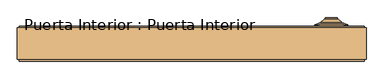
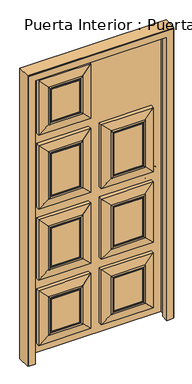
"""IFC4 building model written with IfcOpenShell, lengths in millimetres: door geometry, Puerta Interior : Puerta Interior."""

from ifc_helpers import new_model, si_unit, point, frame, frame_2d, origin, place, context, project, spatial, polyline, circle_curve, ellipse_curve, trimmed, segment, composite_curve, outline, extrude, faceted_brep, source, transform, mapped, element, save
from ifc_brep_helpers import plane_surface, cylinder_surface, revolved_surface, advanced_brep


def puerta_interior_puerta_interior_ed458bac(model_context):
    return source(origin(), model_context, "Body", "SolidModel", [
        extrude(outline(composite_curve([segment(trimmed(circle_curve(frame_2d((1025.0174632, 400.28125)), 17.5), [point((1025.0174632, 382.78125))], [point((1025.0174632, 417.78125))], False, "CARTESIAN"), True, "CONTINUOUS"), segment(trimmed(circle_curve(frame_2d((1025.0174632, 400.28125)), 17.5), [point((1025.0174632, 417.78125))], [point((1025.0174632, 382.78125))], False, "CARTESIAN"), True, "CONTINUOUS")], self_intersect=False)), frame((0.0, 55.0, 0.0), z_axis=(0.0, 1.0, 0.0), x_axis=(0.0, 0.0, 1.0)), (0.0, 0.0, 1.0), 20.0),
        advanced_brep(
        [(447.78125, 55.0, 1025.0174632), (352.78125, 55.0, 1025.0174632), (352.78125, 50.0, 1025.0174632), (447.78125, 50.0, 1025.0174632), (431.78125, 60.0, 1025.0174632), (368.78125, 60.0, 1025.0174632), (419.9828812, 70.0, 1025.0174632), (380.5796188, 70.0, 1025.0174632), (418.1741787, 70.0, 1025.0174632), (382.3883213, 70.0, 1025.0174632), (418.1741787, 55.0, 1025.0174632), (382.3883213, 55.0, 1025.0174632), (400.28125, 55.0, 1025.0174632), (400.28125, 50.0, 1025.0174632)],
        [
            (0, 1, circle_curve(frame((400.28125, 55.0, 1025.0174632), z_axis=(0.0, -1.0, 0.0), x_axis=(-1.0, 0.0, 0.0)), 47.5)),
            (1, 2),
            (2, 3, circle_curve(frame((400.28125, 50.0, 1025.0174632), z_axis=(0.0, 1.0, 0.0), x_axis=(-1.0, 0.0, 0.0)), 47.5)),
            (3, 0),
            (1, 0, circle_curve(frame((400.28125, 55.0, 1025.0174632), z_axis=(0.0, -1.0, 0.0), x_axis=(-1.0, 0.0, 0.0)), 47.5)),
            (3, 2, circle_curve(frame((400.28125, 50.0, 1025.0174632), z_axis=(0.0, 1.0, 0.0), x_axis=(-1.0, 0.0, 0.0)), 47.5)),
            (4, 5, circle_curve(frame((400.28125, 60.0, 1025.0174632), z_axis=(0.0, -1.0, 0.0), x_axis=(-1.0, 0.0, 0.0)), 31.5)),
            (5, 1),
            (0, 4),
            (5, 4, circle_curve(frame((400.28125, 60.0, 1025.0174632), z_axis=(0.0, -1.0, 0.0), x_axis=(-1.0, 0.0, 0.0)), 31.5)),
            (6, 7, circle_curve(frame((400.28125, 70.0, 1025.0174632), z_axis=(0.0, -1.0, 0.0), x_axis=(-1.0, 0.0, 0.0)), 19.7016312)),
            (7, 5),
            (4, 6),
            (7, 6, circle_curve(frame((400.28125, 70.0, 1025.0174632), z_axis=(0.0, -1.0, 0.0), x_axis=(-1.0, 0.0, 0.0)), 19.7016312)),
            (8, 9, circle_curve(frame((400.28125, 70.0, 1025.0174632), z_axis=(0.0, -1.0, 0.0), x_axis=(-1.0, 0.0, 0.0)), 17.8929287)),
            (9, 7),
            (6, 8),
            (9, 8, circle_curve(frame((400.28125, 70.0, 1025.0174632), z_axis=(0.0, -1.0, 0.0), x_axis=(-1.0, 0.0, 0.0)), 17.8929287)),
            (10, 11, circle_curve(frame((400.28125, 55.0, 1025.0174632), z_axis=(0.0, -1.0, 0.0), x_axis=(-1.0, 0.0, 0.0)), 17.8929287)),
            (11, 9),
            (8, 10),
            (11, 10, circle_curve(frame((400.28125, 55.0, 1025.0174632), z_axis=(0.0, -1.0, 0.0), x_axis=(-1.0, 0.0, 0.0)), 17.8929287)),
            (12, 11),
            (10, 12),
            (2, 13),
            (13, 3),
        ],
        [
            cylinder_surface(frame((400.28125, 50.0, 1025.0174632), z_axis=(0.0, 1.0, 0.0), x_axis=(-1.0, 0.0, 0.0)), 47.5),
            revolved_surface(polyline([(352.78125, 55.0, 1025.0174632), (368.78125, 60.0, 1025.0174632)]), (400.28125, 50.0, 1025.0174632), (0.0, 1.0, 0.0)),
            revolved_surface(polyline([(368.78125, 60.0, 1025.0174632), (380.5796188, 70.0, 1025.0174632)]), (400.28125, 50.0, 1025.0174632), (0.0, 1.0, 0.0)),
            plane_surface(frame((400.28125, 70.0, 1025.0174632), z_axis=(0.0, 1.0, 0.0), x_axis=(-1.0, 0.0, 0.0))),
            revolved_surface(polyline([(382.38832130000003, 70.0, 1025.0174632), (382.38832130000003, 55.0, 1025.0174632)]), (400.28125, 50.0, 1025.0174632), (0.0, 1.0, 0.0)),
            plane_surface(frame((400.28125, 55.0, 1025.0174632), z_axis=(0.0, 1.0, 0.0), x_axis=(-1.0, 0.0, 0.0))),
            plane_surface(frame((400.28125, 50.0, 1025.0174632), z_axis=(0.0, -1.0, 0.0), x_axis=(-1.0, 0.0, 0.0))),
        ],
        [
            (0, [[1, 2, 3, 4]]),
            (0, [[5, -4, 6, -2]]),
            (1, [[7, 8, -1, 9]]),
            (1, [[10, -9, -5, -8]]),
            (2, [[11, 12, -7, 13]]),
            (2, [[14, -13, -10, -12]]),
            (3, [[15, 16, -11, 17]]),
            (3, [[18, -17, -14, -16]]),
            (4, [[19, 20, -15, 21]]),
            (4, [[22, -21, -18, -20]]),
            (5, [[23, -19, 24]]),
            (5, [[-24, -22, -23]]),
            (6, [[-3, 25, 26]]),
            (6, [[-6, -26, -25]]),
        ],
    ),
        faceted_brep([(500.0, 45.0, 0.0), (500.0, -45.0, 0.0), (495.0, -45.0, 0.0), (495.0, -50.0, 0.0), (450.0, -50.0, 0.0), (450.0, 0.0, 0.0), (467.0, 0.0, 0.0), (467.0, 50.0, 0.0), (495.0, 50.0, 0.0), (495.0, 45.0, 0.0), (500.0, 45.0, 2100.0), (500.0, -45.0, 2100.0), (-500.0, -45.0, 2100.0), (-500.0, -45.0, 0.0), (-495.0, -45.0, 0.0), (-495.0, -45.0, 2095.0), (495.0, -45.0, 2095.0), (495.0, -50.0, 2095.0), (-495.0, -50.0, 2095.0), (-495.0, -50.0, 0.0), (-450.0, -50.0, 0.0), (-450.0, -50.0, 2050.0), (450.0, -50.0, 2050.0), (450.0, 0.0, 2050.0), (-450.0, 0.0, 2050.0), (-450.0, 0.0, 0.0), (-467.0, 0.0, 0.0), (-467.0, 0.0, 2067.0), (467.0, 0.0, 2067.0), (467.0, 50.0, 2067.0), (-467.0, 50.0, 2067.0), (-467.0, 50.0, 1950.0), (-469.0, 50.0, 1950.0), (-469.0, 50.0, 1850.0), (-467.0, 50.0, 1850.0), (-467.0, 50.0, 1075.0174632), (-469.0, 50.0, 1075.0174632), (-469.0, 50.0, 975.0174632), (-467.0, 50.0, 975.0174632), (-467.0, 50.0, 200.0349265), (-469.0, 50.0, 200.0349265), (-469.0, 50.0, 100.0349265), (-467.0, 50.0, 100.0349265), (-467.0, 50.0, 0.0), (-495.0, 50.0, 0.0), (-495.0, 50.0, 2095.0), (495.0, 50.0, 2095.0), (495.0, 45.0, 2095.0), (-495.0, 45.0, 2095.0), (-495.0, 45.0, 0.0), (-500.0, 45.0, 0.0), (-500.0, 45.0, 2100.0), (-467.0, 7.5, 100.0349265), (-467.0, 7.5, 200.0349265), (-467.0, 7.5, 975.0174632), (-467.0, 7.5, 1075.0174632), (-467.0, 7.5, 1850.0), (-467.0, 7.5, 1950.0), (-469.0, 7.5, 100.0349265), (-469.0, 7.5, 200.0349265), (-469.0, 7.5, 975.0174632), (-469.0, 7.5, 1075.0174632), (-469.0, 7.5, 1950.0), (-469.0, 7.5, 1850.0)], [[[0, 1, 2, 3, 4, 5, 6, 7, 8, 9]], [[1, 0, 10, 11]], [[2, 1, 11, 12, 13, 14, 15, 16]], [[3, 2, 16, 17]], [[4, 3, 17, 18, 19, 20, 21, 22]], [[5, 4, 22, 23]], [[6, 5, 23, 24, 25, 26, 27, 28]], [[7, 6, 28, 29]], [[8, 7, 29, 30, 31, 32, 33, 34, 35, 36, 37, 38, 39, 40, 41, 42, 43, 44, 45, 46]], [[9, 8, 46, 47]], [[0, 9, 47, 48, 49, 50, 51, 10]], [[13, 50, 49, 44, 43, 26, 25, 20, 19, 14]], [[12, 51, 50, 13]], [[48, 45, 44, 49]], [[30, 27, 26, 43, 42, 52, 53, 39, 38, 54, 55, 35, 34, 56, 57, 31]], [[24, 21, 20, 25]], [[18, 15, 14, 19]], [[58, 52, 42, 41]], [[58, 59, 53, 52]], [[53, 59, 40, 39]], [[60, 54, 38, 37]], [[60, 61, 55, 54]], [[55, 61, 36, 35]], [[61, 60, 37, 36]], [[59, 58, 41, 40]], [[11, 10, 51, 12]], [[23, 22, 21, 24]], [[29, 28, 27, 30]], [[17, 16, 15, 18]], [[47, 46, 45, 48]], [[62, 63, 33, 32]], [[62, 32, 31, 57]], [[63, 62, 57, 56]], [[33, 63, 56, 34]]]),
        extrude(outline(polyline([(467.0, 48.203125), (-467.0, 48.203125), (-467.0, 50.0), (467.0, 50.0), (467.0, 48.203125)])), frame((0.0, 0.0, 2.5), z_axis=(0.0, 0.0, 1.0), x_axis=(1.0, 0.0, 0.0)), (0.0, 0.0, 1.0), 2064.5),
        advanced_brep(
        [(117.5, 0.0, 395.0087316), (117.5, 0.0, 157.5), (312.0, 0.0, 157.5), (312.0, 0.0, 395.0087316), (37.5, 35.0, 77.5), (37.5, 35.0, 475.0087316), (392.0, 35.0, 475.0087316), (392.0, 35.0, 77.5), (117.5, -5.0, 395.0087316), (117.5, -5.0, 157.5), (37.5, 10.0, 475.0087316), (37.5, 10.0, 77.5), (97.5, 0.0, 137.5), (97.5, 0.0, 415.0087316), (107.5, 0.0, 147.5), (107.5, 0.0, 405.0087316), (112.5, -5.0, 400.0087316), (112.5, 0.0, 400.0087316), (112.5, 0.0, 152.5), (112.5, -5.0, 152.5), (312.0, -5.0, 157.5), (392.0, 10.0, 77.5), (332.0, 0.0, 137.5), (322.0, 0.0, 147.5), (317.0, 0.0, 152.5), (317.0, -5.0, 152.5), (312.0, -5.0, 395.0087316), (392.0, 10.0, 475.0087316), (332.0, 0.0, 415.0087316), (322.0, 0.0, 405.0087316), (317.0, 0.0, 400.0087316), (317.0, -5.0, 400.0087316)],
        [
            (0, 1),
            (1, 2),
            (2, 3),
            (3, 0),
            (4, 5),
            (5, 6),
            (6, 7),
            (7, 4),
            (8, 9),
            (9, 1),
            (0, 8),
            (10, 5),
            (4, 11),
            (11, 10),
            (11, 12),
            (12, 13),
            (13, 10),
            (12, 14, ellipse_curve(frame((102.5, 0.0, 142.5), z_axis=(-0.7071067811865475, 0.0, 0.7071067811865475), x_axis=(0.7071067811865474, 0.0, 0.7071067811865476)), 7.0710678, 5.0)),
            (14, 15),
            (15, 13, ellipse_curve(frame((102.5, 0.0, 410.0087316), z_axis=(-0.7071067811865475, 0.0, -0.7071067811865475), x_axis=(-0.7071067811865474, 0.0, 0.7071067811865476)), 7.0710678, 5.0)),
            (16, 17),
            (17, 18),
            (18, 19),
            (19, 16),
            (9, 20),
            (20, 2),
            (7, 21),
            (21, 11),
            (21, 22),
            (22, 12),
            (22, 23, ellipse_curve(frame((327.0, 0.0, 142.5), z_axis=(-0.7071067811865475, 0.0, -0.7071067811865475), x_axis=(-0.7071067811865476, 0.0, 0.7071067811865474)), 7.0710678, 5.0)),
            (23, 14),
            (18, 24),
            (24, 25),
            (25, 19),
            (20, 26),
            (26, 3),
            (6, 27),
            (27, 21),
            (27, 28),
            (28, 22),
            (28, 29, ellipse_curve(frame((327.0, 0.0, 410.0087316), z_axis=(0.7071067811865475, 0.0, -0.7071067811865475), x_axis=(-0.7071067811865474, 0.0, -0.7071067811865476)), 7.0710678, 5.0)),
            (29, 23),
            (24, 30),
            (30, 31),
            (31, 25),
            (26, 8),
            (10, 27),
            (13, 28),
            (15, 29),
            (17, 30),
            (16, 31),
        ],
        [
            plane_surface(frame((117.5, 0.0, 395.0087316), z_axis=(0.0, -1.0, 0.0), x_axis=(0.0, 0.0, -1.0))),
            plane_surface(frame((117.5, 35.0, 395.0087316), z_axis=(0.0, 1.0, 0.0), x_axis=(0.0, 0.0, 1.0))),
            plane_surface(frame((117.5, -5.0, 395.0087316), z_axis=(1.0, 0.0, 0.0), x_axis=(0.0, 0.0, -1.0))),
            plane_surface(frame((37.5, 35.0, 475.0087316), z_axis=(-1.0, 0.0, 0.0), x_axis=(0.0, 0.0, -1.0))),
            plane_surface(frame((37.5, 10.0, 475.0087316), z_axis=(-0.1643989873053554, -0.9863939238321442, 0.0), x_axis=(0.0, 0.0, -1.0))),
            cylinder_surface(frame((102.5, 0.0, 475.0087316), z_axis=(0.0, 0.0, 1.0), x_axis=(0.0, 1.0, 0.0)), 5.0),
            plane_surface(frame((112.5, 0.0, 400.0087316), z_axis=(-1.0, 0.0, 0.0), x_axis=(0.0, 0.0, -1.0))),
            plane_surface(frame((117.5, -5.0, 157.5), z_axis=(0.0, 0.0, 1.0), x_axis=(1.0, 0.0, 0.0))),
            plane_surface(frame((37.5, 35.0, 77.5), z_axis=(0.0, 0.0, -1.0), x_axis=(1.0, 0.0, 0.0))),
            plane_surface(frame((37.5, 10.0, 77.5), z_axis=(0.0, -0.9863939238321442, -0.1643989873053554), x_axis=(1.0, 0.0, 0.0))),
            cylinder_surface(frame((37.5, 0.0, 142.5), z_axis=(-1.0, 0.0, 0.0), x_axis=(0.0, 1.0, 0.0)), 5.0),
            plane_surface(frame((112.5, 0.0, 152.5), z_axis=(0.0, 0.0, -1.0), x_axis=(1.0, 0.0, 0.0))),
            plane_surface(frame((312.0, -5.0, 157.5), z_axis=(-1.0, 0.0, 0.0), x_axis=(0.0, 0.0, 1.0))),
            plane_surface(frame((392.0, 35.0, 77.5), z_axis=(1.0, 0.0, 0.0), x_axis=(0.0, 0.0, 1.0))),
            plane_surface(frame((392.0, 10.0, 77.5), z_axis=(0.1643989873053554, -0.9863939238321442, 0.0), x_axis=(0.0, 0.0, 1.0))),
            cylinder_surface(frame((327.0, 0.0, 77.5), z_axis=(0.0, 0.0, -1.0), x_axis=(0.0, 1.0, 0.0)), 5.0),
            plane_surface(frame((317.0, 0.0, 152.5), z_axis=(1.0, 0.0, 0.0), x_axis=(0.0, 0.0, 1.0))),
            plane_surface(frame((312.0, -5.0, 395.0087316), z_axis=(0.0, 0.0, -1.0), x_axis=(-1.0, 0.0, 0.0))),
            plane_surface(frame((392.0, 35.0, 475.0087316), z_axis=(0.0, 0.0, 1.0), x_axis=(-1.0, 0.0, 0.0))),
            plane_surface(frame((392.0, 10.0, 475.0087316), z_axis=(0.0, -0.9863939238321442, 0.1643989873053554), x_axis=(-1.0, 0.0, 0.0))),
            cylinder_surface(frame((392.0, 0.0, 410.0087316), z_axis=(1.0, 0.0, 0.0), x_axis=(0.0, 1.0, 0.0)), 5.0),
            plane_surface(frame((322.0, 0.0, 405.0087316), z_axis=(0.0, -1.0, 0.0), x_axis=(-1.0, 0.0, 0.0))),
            plane_surface(frame((317.0, 0.0, 400.0087316), z_axis=(0.0, 0.0, 1.0), x_axis=(-1.0, 0.0, 0.0))),
            plane_surface(frame((317.0, -5.0, 400.0087316), z_axis=(0.0, -1.0, 0.0), x_axis=(-1.0, 0.0, 0.0))),
        ],
        [
            (0, [[1, 2, 3, 4]]),
            (1, [[5, 6, 7, 8]]),
            (2, [[9, 10, -1, 11]]),
            (3, [[12, -5, 13, 14]]),
            (4, [[-14, 15, 16, 17]]),
            (5, [[-16, 18, 19, 20]]),
            (6, [[21, 22, 23, 24]]),
            (7, [[25, 26, -2, -10]]),
            (8, [[-13, -8, 27, 28]]),
            (9, [[-15, -28, 29, 30]]),
            (10, [[-18, -30, 31, 32]]),
            (11, [[-23, 33, 34, 35]]),
            (12, [[36, 37, -3, -26]]),
            (13, [[-27, -7, 38, 39]]),
            (14, [[-29, -39, 40, 41]]),
            (15, [[-31, -41, 42, 43]]),
            (16, [[-34, 44, 45, 46]]),
            (17, [[47, -11, -4, -37]]),
            (18, [[-12, 48, -38, -6]]),
            (19, [[-17, 49, -40, -48]]),
            (20, [[-20, 50, -42, -49]]),
            (21, [[-19, -32, -43, -50], [-22, 51, -44, -33]]),
            (22, [[-21, 52, -45, -51]]),
            (23, [[-24, -35, -46, -52], [-9, -47, -36, -25]]),
        ],
    ),
        advanced_brep(
        [(-312.0, 0.0, 395.0087316), (-312.0, 0.0, 157.5), (-117.5, 0.0, 157.5), (-117.5, 0.0, 395.0087316), (-392.0, 35.0, 77.5), (-392.0, 35.0, 475.0087316), (-37.5, 35.0, 475.0087316), (-37.5, 35.0, 77.5), (-312.0, -5.0, 395.0087316), (-312.0, -5.0, 157.5), (-392.0, 10.0, 475.0087316), (-392.0, 10.0, 77.5), (-332.0, 0.0, 137.5), (-332.0, 0.0, 415.0087316), (-322.0, 0.0, 147.5), (-322.0, 0.0, 405.0087316), (-317.0, -5.0, 400.0087316), (-317.0, 0.0, 400.0087316), (-317.0, 0.0, 152.5), (-317.0, -5.0, 152.5), (-117.5, -5.0, 157.5), (-37.5, 10.0, 77.5), (-97.5, 0.0, 137.5), (-107.5, 0.0, 147.5), (-112.5, 0.0, 152.5), (-112.5, -5.0, 152.5), (-117.5, -5.0, 395.0087316), (-37.5, 10.0, 475.0087316), (-97.5, 0.0, 415.0087316), (-107.5, 0.0, 405.0087316), (-112.5, 0.0, 400.0087316), (-112.5, -5.0, 400.0087316)],
        [
            (0, 1),
            (1, 2),
            (2, 3),
            (3, 0),
            (4, 5),
            (5, 6),
            (6, 7),
            (7, 4),
            (8, 9),
            (9, 1),
            (0, 8),
            (10, 5),
            (4, 11),
            (11, 10),
            (11, 12),
            (12, 13),
            (13, 10),
            (12, 14, ellipse_curve(frame((-327.0, 0.0, 142.5), z_axis=(-0.7071067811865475, 0.0, 0.7071067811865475), x_axis=(0.7071067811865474, 0.0, 0.7071067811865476)), 7.0710678, 5.0)),
            (14, 15),
            (15, 13, ellipse_curve(frame((-327.0, 0.0, 410.0087316), z_axis=(-0.7071067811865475, 0.0, -0.7071067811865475), x_axis=(-0.7071067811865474, 0.0, 0.7071067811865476)), 7.0710678, 5.0)),
            (16, 17),
            (17, 18),
            (18, 19),
            (19, 16),
            (9, 20),
            (20, 2),
            (7, 21),
            (21, 11),
            (21, 22),
            (22, 12),
            (22, 23, ellipse_curve(frame((-102.5, 0.0, 142.5), z_axis=(-0.7071067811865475, 0.0, -0.7071067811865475), x_axis=(-0.7071067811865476, 0.0, 0.7071067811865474)), 7.0710678, 5.0)),
            (23, 14),
            (18, 24),
            (24, 25),
            (25, 19),
            (20, 26),
            (26, 3),
            (6, 27),
            (27, 21),
            (27, 28),
            (28, 22),
            (28, 29, ellipse_curve(frame((-102.5, 0.0, 410.0087316), z_axis=(0.7071067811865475, 0.0, -0.7071067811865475), x_axis=(-0.7071067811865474, 0.0, -0.7071067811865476)), 7.0710678, 5.0)),
            (29, 23),
            (24, 30),
            (30, 31),
            (31, 25),
            (26, 8),
            (10, 27),
            (13, 28),
            (15, 29),
            (17, 30),
            (16, 31),
        ],
        [
            plane_surface(frame((-312.0, 0.0, 395.0087316), z_axis=(0.0, -1.0, 0.0), x_axis=(0.0, 0.0, -1.0))),
            plane_surface(frame((-312.0, 35.0, 395.0087316), z_axis=(0.0, 1.0, 0.0), x_axis=(0.0, 0.0, 1.0))),
            plane_surface(frame((-312.0, -5.0, 395.0087316), z_axis=(1.0, 0.0, 0.0), x_axis=(0.0, 0.0, -1.0))),
            plane_surface(frame((-392.0, 35.0, 475.0087316), z_axis=(-1.0, 0.0, 0.0), x_axis=(0.0, 0.0, -1.0))),
            plane_surface(frame((-392.0, 10.0, 475.0087316), z_axis=(-0.1643989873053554, -0.9863939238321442, 0.0), x_axis=(0.0, 0.0, -1.0))),
            cylinder_surface(frame((-327.0, 0.0, 475.0087316), z_axis=(0.0, 0.0, 1.0), x_axis=(0.0, 1.0, 0.0)), 5.0),
            plane_surface(frame((-317.0, 0.0, 400.0087316), z_axis=(-1.0, 0.0, 0.0), x_axis=(0.0, 0.0, -1.0))),
            plane_surface(frame((-312.0, -5.0, 157.5), z_axis=(0.0, 0.0, 1.0), x_axis=(1.0, 0.0, 0.0))),
            plane_surface(frame((-392.0, 35.0, 77.5), z_axis=(0.0, 0.0, -1.0), x_axis=(1.0, 0.0, 0.0))),
            plane_surface(frame((-392.0, 10.0, 77.5), z_axis=(0.0, -0.9863939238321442, -0.1643989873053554), x_axis=(1.0, 0.0, 0.0))),
            cylinder_surface(frame((-392.0, 0.0, 142.5), z_axis=(-1.0, 0.0, 0.0), x_axis=(0.0, 1.0, 0.0)), 5.0),
            plane_surface(frame((-317.0, 0.0, 152.5), z_axis=(0.0, 0.0, -1.0), x_axis=(1.0, 0.0, 0.0))),
            plane_surface(frame((-117.5, -5.0, 157.5), z_axis=(-1.0, 0.0, 0.0), x_axis=(0.0, 0.0, 1.0))),
            plane_surface(frame((-37.5, 35.0, 77.5), z_axis=(1.0, 0.0, 0.0), x_axis=(0.0, 0.0, 1.0))),
            plane_surface(frame((-37.5, 10.0, 77.5), z_axis=(0.1643989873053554, -0.9863939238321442, 0.0), x_axis=(0.0, 0.0, 1.0))),
            cylinder_surface(frame((-102.5, 0.0, 77.5), z_axis=(0.0, 0.0, -1.0), x_axis=(0.0, 1.0, 0.0)), 5.0),
            plane_surface(frame((-112.5, 0.0, 152.5), z_axis=(1.0, 0.0, 0.0), x_axis=(0.0, 0.0, 1.0))),
            plane_surface(frame((-117.5, -5.0, 395.0087316), z_axis=(0.0, 0.0, -1.0), x_axis=(-1.0, 0.0, 0.0))),
            plane_surface(frame((-37.5, 35.0, 475.0087316), z_axis=(0.0, 0.0, 1.0), x_axis=(-1.0, 0.0, 0.0))),
            plane_surface(frame((-37.5, 10.0, 475.0087316), z_axis=(0.0, -0.9863939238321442, 0.1643989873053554), x_axis=(-1.0, 0.0, 0.0))),
            cylinder_surface(frame((-37.5, 0.0, 410.0087316), z_axis=(1.0, 0.0, 0.0), x_axis=(0.0, 1.0, 0.0)), 5.0),
            plane_surface(frame((-107.5, 0.0, 405.0087316), z_axis=(0.0, -1.0, 0.0), x_axis=(-1.0, 0.0, 0.0))),
            plane_surface(frame((-112.5, 0.0, 400.0087316), z_axis=(0.0, 0.0, 1.0), x_axis=(-1.0, 0.0, 0.0))),
            plane_surface(frame((-112.5, -5.0, 400.0087316), z_axis=(0.0, -1.0, 0.0), x_axis=(-1.0, 0.0, 0.0))),
        ],
        [
            (0, [[1, 2, 3, 4]]),
            (1, [[5, 6, 7, 8]]),
            (2, [[9, 10, -1, 11]]),
            (3, [[12, -5, 13, 14]]),
            (4, [[-14, 15, 16, 17]]),
            (5, [[-16, 18, 19, 20]]),
            (6, [[21, 22, 23, 24]]),
            (7, [[25, 26, -2, -10]]),
            (8, [[-13, -8, 27, 28]]),
            (9, [[-15, -28, 29, 30]]),
            (10, [[-18, -30, 31, 32]]),
            (11, [[-23, 33, 34, 35]]),
            (12, [[36, 37, -3, -26]]),
            (13, [[-27, -7, 38, 39]]),
            (14, [[-29, -39, 40, 41]]),
            (15, [[-31, -41, 42, 43]]),
            (16, [[-34, 44, 45, 46]]),
            (17, [[47, -11, -4, -37]]),
            (18, [[-12, 48, -38, -6]]),
            (19, [[-17, 49, -40, -48]]),
            (20, [[-20, 50, -42, -49]]),
            (21, [[-19, -32, -43, -50], [-22, 51, -44, -33]]),
            (22, [[-21, 52, -45, -51]]),
            (23, [[-24, -35, -46, -52], [-9, -47, -36, -25]]),
        ],
    ),
        advanced_brep(
        [(-312.0, 0.0, 907.5174632), (-312.0, 0.0, 630.0087316), (-117.5, 0.0, 630.0087316), (-117.5, 0.0, 907.5174632), (-392.0, 35.0, 550.0087316), (-392.0, 35.0, 987.5174632), (-37.5, 35.0, 987.5174632), (-37.5, 35.0, 550.0087316), (-312.0, -5.0, 907.5174632), (-312.0, -5.0, 630.0087316), (-392.0, 10.0, 987.5174632), (-392.0, 10.0, 550.0087316), (-332.0, 0.0, 610.0087316), (-332.0, 0.0, 927.5174632), (-322.0, 0.0, 620.0087316), (-322.0, 0.0, 917.5174632), (-317.0, -5.0, 912.5174632), (-317.0, 0.0, 912.5174632), (-317.0, 0.0, 625.0087316), (-317.0, -5.0, 625.0087316), (-117.5, -5.0, 630.0087316), (-37.5, 10.0, 550.0087316), (-97.5, 0.0, 610.0087316), (-107.5, 0.0, 620.0087316), (-112.5, 0.0, 625.0087316), (-112.5, -5.0, 625.0087316), (-117.5, -5.0, 907.5174632), (-37.5, 10.0, 987.5174632), (-97.5, 0.0, 927.5174632), (-107.5, 0.0, 917.5174632), (-112.5, 0.0, 912.5174632), (-112.5, -5.0, 912.5174632)],
        [
            (0, 1),
            (1, 2),
            (2, 3),
            (3, 0),
            (4, 5),
            (5, 6),
            (6, 7),
            (7, 4),
            (8, 9),
            (9, 1),
            (0, 8),
            (10, 5),
            (4, 11),
            (11, 10),
            (11, 12),
            (12, 13),
            (13, 10),
            (12, 14, ellipse_curve(frame((-327.0, 0.0, 615.0087316), z_axis=(-0.7071067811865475, 0.0, 0.7071067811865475), x_axis=(0.7071067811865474, 0.0, 0.7071067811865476)), 7.0710678, 5.0)),
            (14, 15),
            (15, 13, ellipse_curve(frame((-327.0, 0.0, 922.5174632), z_axis=(-0.7071067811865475, 0.0, -0.7071067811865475), x_axis=(-0.7071067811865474, 0.0, 0.7071067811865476)), 7.0710678, 5.0)),
            (16, 17),
            (17, 18),
            (18, 19),
            (19, 16),
            (9, 20),
            (20, 2),
            (7, 21),
            (21, 11),
            (21, 22),
            (22, 12),
            (22, 23, ellipse_curve(frame((-102.5, 0.0, 615.0087316), z_axis=(-0.7071067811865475, 0.0, -0.7071067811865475), x_axis=(-0.7071067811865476, 0.0, 0.7071067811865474)), 7.0710678, 5.0)),
            (23, 14),
            (18, 24),
            (24, 25),
            (25, 19),
            (20, 26),
            (26, 3),
            (6, 27),
            (27, 21),
            (27, 28),
            (28, 22),
            (28, 29, ellipse_curve(frame((-102.5, 0.0, 922.5174632), z_axis=(0.7071067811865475, 0.0, -0.7071067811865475), x_axis=(-0.7071067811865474, 0.0, -0.7071067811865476)), 7.0710678, 5.0)),
            (29, 23),
            (24, 30),
            (30, 31),
            (31, 25),
            (26, 8),
            (10, 27),
            (13, 28),
            (15, 29),
            (17, 30),
            (16, 31),
        ],
        [
            plane_surface(frame((-312.0, 0.0, 907.5174632), z_axis=(0.0, -1.0, 0.0), x_axis=(0.0, 0.0, -1.0))),
            plane_surface(frame((-312.0, 35.0, 907.5174632), z_axis=(0.0, 1.0, 0.0), x_axis=(0.0, 0.0, 1.0))),
            plane_surface(frame((-312.0, -5.0, 907.5174632), z_axis=(1.0, 0.0, 0.0), x_axis=(0.0, 0.0, -1.0))),
            plane_surface(frame((-392.0, 35.0, 987.5174632), z_axis=(-1.0, 0.0, 0.0), x_axis=(0.0, 0.0, -1.0))),
            plane_surface(frame((-392.0, 10.0, 987.5174632), z_axis=(-0.1643989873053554, -0.9863939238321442, 0.0), x_axis=(0.0, 0.0, -1.0))),
            cylinder_surface(frame((-327.0, 0.0, 987.5174632), z_axis=(0.0, 0.0, 1.0), x_axis=(0.0, 1.0, 0.0)), 5.0),
            plane_surface(frame((-317.0, 0.0, 912.5174632), z_axis=(-1.0, 0.0, 0.0), x_axis=(0.0, 0.0, -1.0))),
            plane_surface(frame((-312.0, -5.0, 630.0087316), z_axis=(0.0, 0.0, 1.0), x_axis=(1.0, 0.0, 0.0))),
            plane_surface(frame((-392.0, 35.0, 550.0087316), z_axis=(0.0, 0.0, -1.0), x_axis=(1.0, 0.0, 0.0))),
            plane_surface(frame((-392.0, 10.0, 550.0087316), z_axis=(0.0, -0.9863939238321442, -0.1643989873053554), x_axis=(1.0, 0.0, 0.0))),
            cylinder_surface(frame((-392.0, 0.0, 615.0087316), z_axis=(-1.0, 0.0, 0.0), x_axis=(0.0, 1.0, 0.0)), 5.0),
            plane_surface(frame((-317.0, 0.0, 625.0087316), z_axis=(0.0, 0.0, -1.0), x_axis=(1.0, 0.0, 0.0))),
            plane_surface(frame((-117.5, -5.0, 630.0087316), z_axis=(-1.0, 0.0, 0.0), x_axis=(0.0, 0.0, 1.0))),
            plane_surface(frame((-37.5, 35.0, 550.0087316), z_axis=(1.0, 0.0, 0.0), x_axis=(0.0, 0.0, 1.0))),
            plane_surface(frame((-37.5, 10.0, 550.0087316), z_axis=(0.1643989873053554, -0.9863939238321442, 0.0), x_axis=(0.0, 0.0, 1.0))),
            cylinder_surface(frame((-102.5, 0.0, 550.0087316), z_axis=(0.0, 0.0, -1.0), x_axis=(0.0, 1.0, 0.0)), 5.0),
            plane_surface(frame((-112.5, 0.0, 625.0087316), z_axis=(1.0, 0.0, 0.0), x_axis=(0.0, 0.0, 1.0))),
            plane_surface(frame((-117.5, -5.0, 907.5174632), z_axis=(0.0, 0.0, -1.0), x_axis=(-1.0, 0.0, 0.0))),
            plane_surface(frame((-37.5, 35.0, 987.5174632), z_axis=(0.0, 0.0, 1.0), x_axis=(-1.0, 0.0, 0.0))),
            plane_surface(frame((-37.5, 10.0, 987.5174632), z_axis=(0.0, -0.9863939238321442, 0.1643989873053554), x_axis=(-1.0, 0.0, 0.0))),
            cylinder_surface(frame((-37.5, 0.0, 922.5174632), z_axis=(1.0, 0.0, 0.0), x_axis=(0.0, 1.0, 0.0)), 5.0),
            plane_surface(frame((-107.5, 0.0, 917.5174632), z_axis=(0.0, -1.0, 0.0), x_axis=(-1.0, 0.0, 0.0))),
            plane_surface(frame((-112.5, 0.0, 912.5174632), z_axis=(0.0, 0.0, 1.0), x_axis=(-1.0, 0.0, 0.0))),
            plane_surface(frame((-112.5, -5.0, 912.5174632), z_axis=(0.0, -1.0, 0.0), x_axis=(-1.0, 0.0, 0.0))),
        ],
        [
            (0, [[1, 2, 3, 4]]),
            (1, [[5, 6, 7, 8]]),
            (2, [[9, 10, -1, 11]]),
            (3, [[12, -5, 13, 14]]),
            (4, [[-14, 15, 16, 17]]),
            (5, [[-16, 18, 19, 20]]),
            (6, [[21, 22, 23, 24]]),
            (7, [[25, 26, -2, -10]]),
            (8, [[-13, -8, 27, 28]]),
            (9, [[-15, -28, 29, 30]]),
            (10, [[-18, -30, 31, 32]]),
            (11, [[-23, 33, 34, 35]]),
            (12, [[36, 37, -3, -26]]),
            (13, [[-27, -7, 38, 39]]),
            (14, [[-29, -39, 40, 41]]),
            (15, [[-31, -41, 42, 43]]),
            (16, [[-34, 44, 45, 46]]),
            (17, [[47, -11, -4, -37]]),
            (18, [[-12, 48, -38, -6]]),
            (19, [[-17, 49, -40, -48]]),
            (20, [[-20, 50, -42, -49]]),
            (21, [[-19, -32, -43, -50], [-22, 51, -44, -33]]),
            (22, [[-21, 52, -45, -51]]),
            (23, [[-24, -35, -46, -52], [-9, -47, -36, -25]]),
        ],
    ),
        advanced_brep(
        [(117.5, 0.0, 907.5174632), (117.5, 0.0, 630.0087316), (312.0, 0.0, 630.0087316), (312.0, 0.0, 907.5174632), (37.5, 35.0, 550.0087316), (37.5, 35.0, 987.5174632), (392.0, 35.0, 987.5174632), (392.0, 35.0, 550.0087316), (117.5, -5.0, 907.5174632), (117.5, -5.0, 630.0087316), (37.5, 10.0, 987.5174632), (37.5, 10.0, 550.0087316), (97.5, 0.0, 610.0087316), (97.5, 0.0, 927.5174632), (107.5, 0.0, 620.0087316), (107.5, 0.0, 917.5174632), (112.5, -5.0, 912.5174632), (112.5, 0.0, 912.5174632), (112.5, 0.0, 625.0087316), (112.5, -5.0, 625.0087316), (312.0, -5.0, 630.0087316), (392.0, 10.0, 550.0087316), (332.0, 0.0, 610.0087316), (322.0, 0.0, 620.0087316), (317.0, 0.0, 625.0087316), (317.0, -5.0, 625.0087316), (312.0, -5.0, 907.5174632), (392.0, 10.0, 987.5174632), (332.0, 0.0, 927.5174632), (322.0, 0.0, 917.5174632), (317.0, 0.0, 912.5174632), (317.0, -5.0, 912.5174632)],
        [
            (0, 1),
            (1, 2),
            (2, 3),
            (3, 0),
            (4, 5),
            (5, 6),
            (6, 7),
            (7, 4),
            (8, 9),
            (9, 1),
            (0, 8),
            (10, 5),
            (4, 11),
            (11, 10),
            (11, 12),
            (12, 13),
            (13, 10),
            (12, 14, ellipse_curve(frame((102.5, 0.0, 615.0087316), z_axis=(-0.7071067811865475, 0.0, 0.7071067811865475), x_axis=(0.7071067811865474, 0.0, 0.7071067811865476)), 7.0710678, 5.0)),
            (14, 15),
            (15, 13, ellipse_curve(frame((102.5, 0.0, 922.5174632), z_axis=(-0.7071067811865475, 0.0, -0.7071067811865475), x_axis=(-0.7071067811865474, 0.0, 0.7071067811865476)), 7.0710678, 5.0)),
            (16, 17),
            (17, 18),
            (18, 19),
            (19, 16),
            (9, 20),
            (20, 2),
            (7, 21),
            (21, 11),
            (21, 22),
            (22, 12),
            (22, 23, ellipse_curve(frame((327.0, 0.0, 615.0087316), z_axis=(-0.7071067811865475, 0.0, -0.7071067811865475), x_axis=(-0.7071067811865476, 0.0, 0.7071067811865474)), 7.0710678, 5.0)),
            (23, 14),
            (18, 24),
            (24, 25),
            (25, 19),
            (20, 26),
            (26, 3),
            (6, 27),
            (27, 21),
            (27, 28),
            (28, 22),
            (28, 29, ellipse_curve(frame((327.0, 0.0, 922.5174632), z_axis=(0.7071067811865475, 0.0, -0.7071067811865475), x_axis=(-0.7071067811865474, 0.0, -0.7071067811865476)), 7.0710678, 5.0)),
            (29, 23),
            (24, 30),
            (30, 31),
            (31, 25),
            (26, 8),
            (10, 27),
            (13, 28),
            (15, 29),
            (17, 30),
            (16, 31),
        ],
        [
            plane_surface(frame((117.5, 0.0, 907.5174632), z_axis=(0.0, -1.0, 0.0), x_axis=(0.0, 0.0, -1.0))),
            plane_surface(frame((117.5, 35.0, 907.5174632), z_axis=(0.0, 1.0, 0.0), x_axis=(0.0, 0.0, 1.0))),
            plane_surface(frame((117.5, -5.0, 907.5174632), z_axis=(1.0, 0.0, 0.0), x_axis=(0.0, 0.0, -1.0))),
            plane_surface(frame((37.5, 35.0, 987.5174632), z_axis=(-1.0, 0.0, 0.0), x_axis=(0.0, 0.0, -1.0))),
            plane_surface(frame((37.5, 10.0, 987.5174632), z_axis=(-0.1643989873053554, -0.9863939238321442, 0.0), x_axis=(0.0, 0.0, -1.0))),
            cylinder_surface(frame((102.5, 0.0, 987.5174632), z_axis=(0.0, 0.0, 1.0), x_axis=(0.0, 1.0, 0.0)), 5.0),
            plane_surface(frame((112.5, 0.0, 912.5174632), z_axis=(-1.0, 0.0, 0.0), x_axis=(0.0, 0.0, -1.0))),
            plane_surface(frame((117.5, -5.0, 630.0087316), z_axis=(0.0, 0.0, 1.0), x_axis=(1.0, 0.0, 0.0))),
            plane_surface(frame((37.5, 35.0, 550.0087316), z_axis=(0.0, 0.0, -1.0), x_axis=(1.0, 0.0, 0.0))),
            plane_surface(frame((37.5, 10.0, 550.0087316), z_axis=(0.0, -0.9863939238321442, -0.1643989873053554), x_axis=(1.0, 0.0, 0.0))),
            cylinder_surface(frame((37.5, 0.0, 615.0087316), z_axis=(-1.0, 0.0, 0.0), x_axis=(0.0, 1.0, 0.0)), 5.0),
            plane_surface(frame((112.5, 0.0, 625.0087316), z_axis=(0.0, 0.0, -1.0), x_axis=(1.0, 0.0, 0.0))),
            plane_surface(frame((312.0, -5.0, 630.0087316), z_axis=(-1.0, 0.0, 0.0), x_axis=(0.0, 0.0, 1.0))),
            plane_surface(frame((392.0, 35.0, 550.0087316), z_axis=(1.0, 0.0, 0.0), x_axis=(0.0, 0.0, 1.0))),
            plane_surface(frame((392.0, 10.0, 550.0087316), z_axis=(0.1643989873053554, -0.9863939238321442, 0.0), x_axis=(0.0, 0.0, 1.0))),
            cylinder_surface(frame((327.0, 0.0, 550.0087316), z_axis=(0.0, 0.0, -1.0), x_axis=(0.0, 1.0, 0.0)), 5.0),
            plane_surface(frame((317.0, 0.0, 625.0087316), z_axis=(1.0, 0.0, 0.0), x_axis=(0.0, 0.0, 1.0))),
            plane_surface(frame((312.0, -5.0, 907.5174632), z_axis=(0.0, 0.0, -1.0), x_axis=(-1.0, 0.0, 0.0))),
            plane_surface(frame((392.0, 35.0, 987.5174632), z_axis=(0.0, 0.0, 1.0), x_axis=(-1.0, 0.0, 0.0))),
            plane_surface(frame((392.0, 10.0, 987.5174632), z_axis=(0.0, -0.9863939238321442, 0.1643989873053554), x_axis=(-1.0, 0.0, 0.0))),
            cylinder_surface(frame((392.0, 0.0, 922.5174632), z_axis=(1.0, 0.0, 0.0), x_axis=(0.0, 1.0, 0.0)), 5.0),
            plane_surface(frame((322.0, 0.0, 917.5174632), z_axis=(0.0, -1.0, 0.0), x_axis=(-1.0, 0.0, 0.0))),
            plane_surface(frame((317.0, 0.0, 912.5174632), z_axis=(0.0, 0.0, 1.0), x_axis=(-1.0, 0.0, 0.0))),
            plane_surface(frame((317.0, -5.0, 912.5174632), z_axis=(0.0, -1.0, 0.0), x_axis=(-1.0, 0.0, 0.0))),
        ],
        [
            (0, [[1, 2, 3, 4]]),
            (1, [[5, 6, 7, 8]]),
            (2, [[9, 10, -1, 11]]),
            (3, [[12, -5, 13, 14]]),
            (4, [[-14, 15, 16, 17]]),
            (5, [[-16, 18, 19, 20]]),
            (6, [[21, 22, 23, 24]]),
            (7, [[25, 26, -2, -10]]),
            (8, [[-13, -8, 27, 28]]),
            (9, [[-15, -28, 29, 30]]),
            (10, [[-18, -30, 31, 32]]),
            (11, [[-23, 33, 34, 35]]),
            (12, [[36, 37, -3, -26]]),
            (13, [[-27, -7, 38, 39]]),
            (14, [[-29, -39, 40, 41]]),
            (15, [[-31, -41, 42, 43]]),
            (16, [[-34, 44, 45, 46]]),
            (17, [[47, -11, -4, -37]]),
            (18, [[-12, 48, -38, -6]]),
            (19, [[-17, 49, -40, -48]]),
            (20, [[-20, 50, -42, -49]]),
            (21, [[-19, -32, -43, -50], [-22, 51, -44, -33]]),
            (22, [[-21, 52, -45, -51]]),
            (23, [[-24, -35, -46, -52], [-9, -47, -36, -25]]),
        ],
    ),
        advanced_brep(
        [(117.5, 0.0, 1445.0087316), (117.5, 0.0, 1142.5174632), (312.0, 0.0, 1142.5174632), (312.0, 0.0, 1445.0087316), (117.5, -5.0, 1445.0087316), (117.5, -5.0, 1142.5174632), (312.0, -5.0, 1142.5174632), (37.5, 35.0, 1062.5174632), (37.5, 35.0, 1525.0087316), (392.0, 35.0, 1525.0087316), (392.0, 35.0, 1062.5174632), (312.0, -5.0, 1445.0087316), (37.5, 10.0, 1525.0087316), (37.5, 10.0, 1062.5174632), (392.0, 10.0, 1062.5174632), (392.0, 10.0, 1525.0087316), (112.5, -5.0, 1450.0087316), (112.5, -5.0, 1137.5174632), (317.0, -5.0, 1137.5174632), (317.0, -5.0, 1450.0087316), (97.5, 0.0, 1122.5174632), (97.5, 0.0, 1465.0087316), (332.0, 0.0, 1122.5174632), (107.5, 0.0, 1132.5174632), (107.5, 0.0, 1455.0087316), (322.0, 0.0, 1132.5174632), (322.0, 0.0, 1455.0087316), (112.5, 0.0, 1137.5174632), (112.5, 0.0, 1450.0087316), (317.0, 0.0, 1450.0087316), (317.0, 0.0, 1137.5174632), (332.0, 0.0, 1465.0087316)],
        [
            (0, 1),
            (1, 2),
            (2, 3),
            (3, 0),
            (4, 5),
            (5, 1),
            (0, 4),
            (5, 6),
            (6, 2),
            (7, 8),
            (8, 9),
            (9, 10),
            (10, 7),
            (6, 11),
            (11, 3),
            (12, 8),
            (7, 13),
            (13, 12),
            (14, 10),
            (9, 15),
            (15, 14),
            (14, 13),
            (16, 17),
            (17, 18),
            (18, 19),
            (19, 16),
            (4, 11),
            (13, 20),
            (20, 21),
            (21, 12),
            (14, 22),
            (22, 20),
            (20, 23, ellipse_curve(frame((102.5, 0.0, 1127.5174632), z_axis=(-0.7071067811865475, 0.0, 0.7071067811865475), x_axis=(0.7071067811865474, 0.0, 0.7071067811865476)), 7.0710678, 5.0)),
            (23, 24),
            (24, 21, ellipse_curve(frame((102.5, 0.0, 1460.0087316), z_axis=(-0.7071067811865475, 0.0, -0.7071067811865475), x_axis=(-0.7071067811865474, 0.0, 0.7071067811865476)), 7.0710678, 5.0)),
            (22, 25, ellipse_curve(frame((327.0, 0.0, 1127.5174632), z_axis=(-0.7071067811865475, 0.0, -0.7071067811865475), x_axis=(-0.7071067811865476, 0.0, 0.7071067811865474)), 7.0710678, 5.0)),
            (25, 23),
            (25, 26),
            (26, 24),
            (27, 28),
            (28, 29),
            (29, 30),
            (30, 27),
            (16, 28),
            (27, 17),
            (30, 18),
            (15, 31),
            (31, 22),
            (31, 26, ellipse_curve(frame((327.0, 0.0, 1460.0087316), z_axis=(0.7071067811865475, 0.0, -0.7071067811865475), x_axis=(-0.7071067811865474, 0.0, -0.7071067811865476)), 7.0710678, 5.0)),
            (29, 19),
            (12, 15),
            (21, 31),
        ],
        [
            plane_surface(frame((117.5, 0.0, 1445.0087316), z_axis=(0.0, -1.0, 0.0), x_axis=(0.0, 0.0, -1.0))),
            plane_surface(frame((117.5, -5.0, 1445.0087316), z_axis=(1.0, 0.0, 0.0), x_axis=(0.0, 0.0, -1.0))),
            plane_surface(frame((117.5, -5.0, 1142.5174632), z_axis=(0.0, 0.0, 1.0), x_axis=(1.0, 0.0, 0.0))),
            plane_surface(frame((117.5, 35.0, 1445.0087316), z_axis=(0.0, 1.0, 0.0), x_axis=(0.0, 0.0, 1.0))),
            plane_surface(frame((312.0, -5.0, 1142.5174632), z_axis=(-1.0, 0.0, 0.0), x_axis=(0.0, 0.0, 1.0))),
            plane_surface(frame((37.5, 35.0, 1525.0087316), z_axis=(-1.0, 0.0, 0.0), x_axis=(0.0, 0.0, -1.0))),
            plane_surface(frame((392.0, 35.0, 1062.5174632), z_axis=(1.0, 0.0, 0.0), x_axis=(0.0, 0.0, 1.0))),
            plane_surface(frame((37.5, 35.0, 1062.5174632), z_axis=(0.0, 0.0, -1.0), x_axis=(1.0, 0.0, 0.0))),
            plane_surface(frame((317.0, -5.0, 1450.0087316), z_axis=(0.0, -1.0, 0.0), x_axis=(-1.0, 0.0, 0.0))),
            plane_surface(frame((37.5, 10.0, 1525.0087316), z_axis=(-0.1643989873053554, -0.9863939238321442, 0.0), x_axis=(0.0, 0.0, -1.0))),
            plane_surface(frame((37.5, 10.0, 1062.5174632), z_axis=(0.0, -0.9863939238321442, -0.1643989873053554), x_axis=(1.0, 0.0, 0.0))),
            cylinder_surface(frame((102.5, 0.0, 1525.0087316), z_axis=(0.0, 0.0, 1.0), x_axis=(0.0, 1.0, 0.0)), 5.0),
            cylinder_surface(frame((37.5, 0.0, 1127.5174632), z_axis=(-1.0, 0.0, 0.0), x_axis=(0.0, 1.0, 0.0)), 5.0),
            plane_surface(frame((322.0, 0.0, 1455.0087316), z_axis=(0.0, -1.0, 0.0), x_axis=(-1.0, 0.0, 0.0))),
            plane_surface(frame((112.5, 0.0, 1450.0087316), z_axis=(-1.0, 0.0, 0.0), x_axis=(0.0, 0.0, -1.0))),
            plane_surface(frame((112.5, 0.0, 1137.5174632), z_axis=(0.0, 0.0, -1.0), x_axis=(1.0, 0.0, 0.0))),
            plane_surface(frame((392.0, 10.0, 1062.5174632), z_axis=(0.1643989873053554, -0.9863939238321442, 0.0), x_axis=(0.0, 0.0, 1.0))),
            cylinder_surface(frame((327.0, 0.0, 1062.5174632), z_axis=(0.0, 0.0, -1.0), x_axis=(0.0, 1.0, 0.0)), 5.0),
            plane_surface(frame((317.0, 0.0, 1137.5174632), z_axis=(1.0, 0.0, 0.0), x_axis=(0.0, 0.0, 1.0))),
            plane_surface(frame((312.0, -5.0, 1445.0087316), z_axis=(0.0, 0.0, -1.0), x_axis=(-1.0, 0.0, 0.0))),
            plane_surface(frame((392.0, 35.0, 1525.0087316), z_axis=(0.0, 0.0, 1.0), x_axis=(-1.0, 0.0, 0.0))),
            plane_surface(frame((392.0, 10.0, 1525.0087316), z_axis=(0.0, -0.9863939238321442, 0.1643989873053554), x_axis=(-1.0, 0.0, 0.0))),
            cylinder_surface(frame((392.0, 0.0, 1460.0087316), z_axis=(1.0, 0.0, 0.0), x_axis=(0.0, 1.0, 0.0)), 5.0),
            plane_surface(frame((317.0, 0.0, 1450.0087316), z_axis=(0.0, 0.0, 1.0), x_axis=(-1.0, 0.0, 0.0))),
        ],
        [
            (0, [[1, 2, 3, 4]]),
            (1, [[5, 6, -1, 7]]),
            (2, [[8, 9, -2, -6]]),
            (3, [[10, 11, 12, 13]]),
            (4, [[14, 15, -3, -9]]),
            (5, [[16, -10, 17, 18]]),
            (6, [[19, -12, 20, 21]]),
            (7, [[-17, -13, -19, 22]]),
            (8, [[23, 24, 25, 26], [-5, 27, -14, -8]]),
            (9, [[-18, 28, 29, 30]]),
            (10, [[-28, -22, 31, 32]]),
            (11, [[-29, 33, 34, 35]]),
            (12, [[-33, -32, 36, 37]]),
            (13, [[-34, -37, 38, 39], [40, 41, 42, 43]]),
            (14, [[44, -40, 45, -23]]),
            (15, [[-45, -43, 46, -24]]),
            (16, [[-31, -21, 47, 48]]),
            (17, [[-36, -48, 49, -38]]),
            (18, [[-46, -42, 50, -25]]),
            (19, [[-27, -7, -4, -15]]),
            (20, [[-16, 51, -20, -11]]),
            (21, [[-30, 52, -47, -51]]),
            (22, [[-35, -39, -49, -52]]),
            (23, [[-44, -26, -50, -41]]),
        ],
    ),
        advanced_brep(
        [(-312.0, 0.0, 1445.0087316), (-312.0, 0.0, 1142.5174632), (-117.5, 0.0, 1142.5174632), (-117.5, 0.0, 1445.0087316), (-312.0, -5.0, 1445.0087316), (-312.0, -5.0, 1142.5174632), (-117.5, -5.0, 1142.5174632), (-117.5, -5.0, 1445.0087316), (-392.0, 10.0, 1525.0087316), (-392.0, 35.0, 1525.0087316), (-392.0, 35.0, 1062.5174632), (-392.0, 10.0, 1062.5174632), (-37.5, 35.0, 1525.0087316), (-37.5, 35.0, 1062.5174632), (-37.5, 10.0, 1062.5174632), (-37.5, 10.0, 1525.0087316), (-317.0, -5.0, 1450.0087316), (-317.0, -5.0, 1137.5174632), (-112.5, -5.0, 1137.5174632), (-112.5, -5.0, 1450.0087316), (-332.0, 0.0, 1122.5174632), (-332.0, 0.0, 1465.0087316), (-97.5, 0.0, 1122.5174632), (-322.0, 0.0, 1132.5174632), (-322.0, 0.0, 1455.0087316), (-107.5, 0.0, 1132.5174632), (-107.5, 0.0, 1455.0087316), (-317.0, 0.0, 1137.5174632), (-317.0, 0.0, 1450.0087316), (-112.5, 0.0, 1450.0087316), (-112.5, 0.0, 1137.5174632), (-97.5, 0.0, 1465.0087316)],
        [
            (0, 1),
            (1, 2),
            (2, 3),
            (3, 0),
            (4, 5),
            (5, 1),
            (0, 4),
            (5, 6),
            (6, 2),
            (6, 7),
            (7, 3),
            (8, 9),
            (9, 10),
            (10, 11),
            (11, 8),
            (9, 12),
            (12, 13),
            (13, 10),
            (14, 13),
            (12, 15),
            (15, 14),
            (14, 11),
            (16, 17),
            (17, 18),
            (18, 19),
            (19, 16),
            (4, 7),
            (11, 20),
            (20, 21),
            (21, 8),
            (14, 22),
            (22, 20),
            (20, 23, ellipse_curve(frame((-327.0, 0.0, 1127.5174632), z_axis=(-0.7071067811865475, 0.0, 0.7071067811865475), x_axis=(0.7071067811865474, 0.0, 0.7071067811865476)), 7.0710678, 5.0)),
            (23, 24),
            (24, 21, ellipse_curve(frame((-327.0, 0.0, 1460.0087316), z_axis=(-0.7071067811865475, 0.0, -0.7071067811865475), x_axis=(-0.7071067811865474, 0.0, 0.7071067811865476)), 7.0710678, 5.0)),
            (22, 25, ellipse_curve(frame((-102.5, 0.0, 1127.5174632), z_axis=(-0.7071067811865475, 0.0, -0.7071067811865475), x_axis=(-0.7071067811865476, 0.0, 0.7071067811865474)), 7.0710678, 5.0)),
            (25, 23),
            (25, 26),
            (26, 24),
            (27, 28),
            (28, 29),
            (29, 30),
            (30, 27),
            (16, 28),
            (27, 17),
            (30, 18),
            (15, 31),
            (31, 22),
            (31, 26, ellipse_curve(frame((-102.5, 0.0, 1460.0087316), z_axis=(0.7071067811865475, 0.0, -0.7071067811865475), x_axis=(-0.7071067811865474, 0.0, -0.7071067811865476)), 7.0710678, 5.0)),
            (29, 19),
            (8, 15),
            (21, 31),
        ],
        [
            plane_surface(frame((-312.0, 0.0, 1445.0087316), z_axis=(0.0, -1.0, 0.0), x_axis=(0.0, 0.0, -1.0))),
            plane_surface(frame((-312.0, -5.0, 1445.0087316), z_axis=(1.0, 0.0, 0.0), x_axis=(0.0, 0.0, -1.0))),
            plane_surface(frame((-312.0, -5.0, 1142.5174632), z_axis=(0.0, 0.0, 1.0), x_axis=(1.0, 0.0, 0.0))),
            plane_surface(frame((-117.5, -5.0, 1142.5174632), z_axis=(-1.0, 0.0, 0.0), x_axis=(0.0, 0.0, 1.0))),
            plane_surface(frame((-392.0, 35.0, 1525.0087316), z_axis=(-1.0, 0.0, 0.0), x_axis=(0.0, 0.0, -1.0))),
            plane_surface(frame((-312.0, 35.0, 1445.0087316), z_axis=(0.0, 1.0, 0.0), x_axis=(0.0, 0.0, 1.0))),
            plane_surface(frame((-37.5, 35.0, 1062.5174632), z_axis=(1.0, 0.0, 0.0), x_axis=(0.0, 0.0, 1.0))),
            plane_surface(frame((-392.0, 35.0, 1062.5174632), z_axis=(0.0, 0.0, -1.0), x_axis=(1.0, 0.0, 0.0))),
            plane_surface(frame((-112.5, -5.0, 1450.0087316), z_axis=(0.0, -1.0, 0.0), x_axis=(-1.0, 0.0, 0.0))),
            plane_surface(frame((-392.0, 10.0, 1525.0087316), z_axis=(-0.1643989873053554, -0.9863939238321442, 0.0), x_axis=(0.0, 0.0, -1.0))),
            plane_surface(frame((-392.0, 10.0, 1062.5174632), z_axis=(0.0, -0.9863939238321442, -0.1643989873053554), x_axis=(1.0, 0.0, 0.0))),
            cylinder_surface(frame((-327.0, 0.0, 1525.0087316), z_axis=(0.0, 0.0, 1.0), x_axis=(0.0, 1.0, 0.0)), 5.0),
            cylinder_surface(frame((-392.0, 0.0, 1127.5174632), z_axis=(-1.0, 0.0, 0.0), x_axis=(0.0, 1.0, 0.0)), 5.0),
            plane_surface(frame((-107.5, 0.0, 1455.0087316), z_axis=(0.0, -1.0, 0.0), x_axis=(-1.0, 0.0, 0.0))),
            plane_surface(frame((-317.0, 0.0, 1450.0087316), z_axis=(-1.0, 0.0, 0.0), x_axis=(0.0, 0.0, -1.0))),
            plane_surface(frame((-317.0, 0.0, 1137.5174632), z_axis=(0.0, 0.0, -1.0), x_axis=(1.0, 0.0, 0.0))),
            plane_surface(frame((-37.5, 10.0, 1062.5174632), z_axis=(0.1643989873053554, -0.9863939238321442, 0.0), x_axis=(0.0, 0.0, 1.0))),
            cylinder_surface(frame((-102.5, 0.0, 1062.5174632), z_axis=(0.0, 0.0, -1.0), x_axis=(0.0, 1.0, 0.0)), 5.0),
            plane_surface(frame((-112.5, 0.0, 1137.5174632), z_axis=(1.0, 0.0, 0.0), x_axis=(0.0, 0.0, 1.0))),
            plane_surface(frame((-117.5, -5.0, 1445.0087316), z_axis=(0.0, 0.0, -1.0), x_axis=(-1.0, 0.0, 0.0))),
            plane_surface(frame((-37.5, 35.0, 1525.0087316), z_axis=(0.0, 0.0, 1.0), x_axis=(-1.0, 0.0, 0.0))),
            plane_surface(frame((-37.5, 10.0, 1525.0087316), z_axis=(0.0, -0.9863939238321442, 0.1643989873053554), x_axis=(-1.0, 0.0, 0.0))),
            cylinder_surface(frame((-37.5, 0.0, 1460.0087316), z_axis=(1.0, 0.0, 0.0), x_axis=(0.0, 1.0, 0.0)), 5.0),
            plane_surface(frame((-112.5, 0.0, 1450.0087316), z_axis=(0.0, 0.0, 1.0), x_axis=(-1.0, 0.0, 0.0))),
        ],
        [
            (0, [[1, 2, 3, 4]]),
            (1, [[5, 6, -1, 7]]),
            (2, [[8, 9, -2, -6]]),
            (3, [[10, 11, -3, -9]]),
            (4, [[12, 13, 14, 15]]),
            (5, [[-13, 16, 17, 18]]),
            (6, [[19, -17, 20, 21]]),
            (7, [[-14, -18, -19, 22]]),
            (8, [[23, 24, 25, 26], [-5, 27, -10, -8]]),
            (9, [[-15, 28, 29, 30]]),
            (10, [[-28, -22, 31, 32]]),
            (11, [[-29, 33, 34, 35]]),
            (12, [[-33, -32, 36, 37]]),
            (13, [[-34, -37, 38, 39], [40, 41, 42, 43]]),
            (14, [[44, -40, 45, -23]]),
            (15, [[-45, -43, 46, -24]]),
            (16, [[-31, -21, 47, 48]]),
            (17, [[-36, -48, 49, -38]]),
            (18, [[-46, -42, 50, -25]]),
            (19, [[-27, -7, -4, -11]]),
            (20, [[-12, 51, -20, -16]]),
            (21, [[-30, 52, -47, -51]]),
            (22, [[-35, -39, -49, -52]]),
            (23, [[-44, -26, -50, -41]]),
        ],
    ),
        advanced_brep(
        [(-312.0, 0.0, 1912.0), (-312.0, 0.0, 1680.0087316), (-117.5, 0.0, 1680.0087316), (-117.5, 0.0, 1912.0), (-392.0, 35.0, 1600.0087316), (-392.0, 35.0, 1992.0), (-37.5, 35.0, 1992.0), (-37.5, 35.0, 1600.0087316), (-312.0, -5.0, 1912.0), (-312.0, -5.0, 1680.0087316), (-392.0, 10.0, 1992.0), (-392.0, 10.0, 1600.0087316), (-332.0, 0.0, 1660.0087316), (-332.0, 0.0, 1932.0), (-322.0, 0.0, 1670.0087316), (-322.0, 0.0, 1922.0), (-317.0, -5.0, 1917.0), (-317.0, 0.0, 1917.0), (-317.0, 0.0, 1675.0087316), (-317.0, -5.0, 1675.0087316), (-117.5, -5.0, 1680.0087316), (-37.5, 10.0, 1600.0087316), (-97.5, 0.0, 1660.0087316), (-107.5, 0.0, 1670.0087316), (-112.5, 0.0, 1675.0087316), (-112.5, -5.0, 1675.0087316), (-117.5, -5.0, 1912.0), (-37.5, 10.0, 1992.0), (-97.5, 0.0, 1932.0), (-107.5, 0.0, 1922.0), (-112.5, 0.0, 1917.0), (-112.5, -5.0, 1917.0)],
        [
            (0, 1),
            (1, 2),
            (2, 3),
            (3, 0),
            (4, 5),
            (5, 6),
            (6, 7),
            (7, 4),
            (8, 9),
            (9, 1),
            (0, 8),
            (10, 5),
            (4, 11),
            (11, 10),
            (11, 12),
            (12, 13),
            (13, 10),
            (12, 14, ellipse_curve(frame((-327.0, 0.0, 1665.0087316), z_axis=(-0.7071067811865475, 0.0, 0.7071067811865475), x_axis=(0.7071067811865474, 0.0, 0.7071067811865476)), 7.0710678, 5.0)),
            (14, 15),
            (15, 13, ellipse_curve(frame((-327.0, 0.0, 1927.0), z_axis=(-0.7071067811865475, 0.0, -0.7071067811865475), x_axis=(-0.7071067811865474, 0.0, 0.7071067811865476)), 7.0710678, 5.0)),
            (16, 17),
            (17, 18),
            (18, 19),
            (19, 16),
            (9, 20),
            (20, 2),
            (7, 21),
            (21, 11),
            (21, 22),
            (22, 12),
            (22, 23, ellipse_curve(frame((-102.5, 0.0, 1665.0087316), z_axis=(-0.7071067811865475, 0.0, -0.7071067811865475), x_axis=(-0.7071067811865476, 0.0, 0.7071067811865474)), 7.0710678, 5.0)),
            (23, 14),
            (18, 24),
            (24, 25),
            (25, 19),
            (20, 26),
            (26, 3),
            (6, 27),
            (27, 21),
            (27, 28),
            (28, 22),
            (28, 29, ellipse_curve(frame((-102.5, 0.0, 1927.0), z_axis=(0.7071067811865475, 0.0, -0.7071067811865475), x_axis=(-0.7071067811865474, 0.0, -0.7071067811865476)), 7.0710678, 5.0)),
            (29, 23),
            (24, 30),
            (30, 31),
            (31, 25),
            (26, 8),
            (10, 27),
            (13, 28),
            (15, 29),
            (17, 30),
            (16, 31),
        ],
        [
            plane_surface(frame((-312.0, 0.0, 1912.0), z_axis=(0.0, -1.0, 0.0), x_axis=(0.0, 0.0, -1.0))),
            plane_surface(frame((-312.0, 35.0, 1912.0), z_axis=(0.0, 1.0, 0.0), x_axis=(0.0, 0.0, 1.0))),
            plane_surface(frame((-312.0, -5.0, 1912.0), z_axis=(1.0, 0.0, 0.0), x_axis=(0.0, 0.0, -1.0))),
            plane_surface(frame((-392.0, 35.0, 1992.0), z_axis=(-1.0, 0.0, 0.0), x_axis=(0.0, 0.0, -1.0))),
            plane_surface(frame((-392.0, 10.0, 1992.0), z_axis=(-0.1643989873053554, -0.9863939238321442, 0.0), x_axis=(0.0, 0.0, -1.0))),
            cylinder_surface(frame((-327.0, 0.0, 1992.0), z_axis=(0.0, 0.0, 1.0), x_axis=(0.0, 1.0, 0.0)), 5.0),
            plane_surface(frame((-317.0, 0.0, 1917.0), z_axis=(-1.0, 0.0, 0.0), x_axis=(0.0, 0.0, -1.0))),
            plane_surface(frame((-312.0, -5.0, 1680.0087316), z_axis=(0.0, 0.0, 1.0), x_axis=(1.0, 0.0, 0.0))),
            plane_surface(frame((-392.0, 35.0, 1600.0087316), z_axis=(0.0, 0.0, -1.0), x_axis=(1.0, 0.0, 0.0))),
            plane_surface(frame((-392.0, 10.0, 1600.0087316), z_axis=(0.0, -0.9863939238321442, -0.1643989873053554), x_axis=(1.0, 0.0, 0.0))),
            cylinder_surface(frame((-392.0, 0.0, 1665.0087316), z_axis=(-1.0, 0.0, 0.0), x_axis=(0.0, 1.0, 0.0)), 5.0),
            plane_surface(frame((-317.0, 0.0, 1675.0087316), z_axis=(0.0, 0.0, -1.0), x_axis=(1.0, 0.0, 0.0))),
            plane_surface(frame((-117.5, -5.0, 1680.0087316), z_axis=(-1.0, 0.0, 0.0), x_axis=(0.0, 0.0, 1.0))),
            plane_surface(frame((-37.5, 35.0, 1600.0087316), z_axis=(1.0, 0.0, 0.0), x_axis=(0.0, 0.0, 1.0))),
            plane_surface(frame((-37.5, 10.0, 1600.0087316), z_axis=(0.1643989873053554, -0.9863939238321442, 0.0), x_axis=(0.0, 0.0, 1.0))),
            cylinder_surface(frame((-102.5, 0.0, 1600.0087316), z_axis=(0.0, 0.0, -1.0), x_axis=(0.0, 1.0, 0.0)), 5.0),
            plane_surface(frame((-112.5, 0.0, 1675.0087316), z_axis=(1.0, 0.0, 0.0), x_axis=(0.0, 0.0, 1.0))),
            plane_surface(frame((-117.5, -5.0, 1912.0), z_axis=(0.0, 0.0, -1.0), x_axis=(-1.0, 0.0, 0.0))),
            plane_surface(frame((-37.5, 35.0, 1992.0), z_axis=(0.0, 0.0, 1.0), x_axis=(-1.0, 0.0, 0.0))),
            plane_surface(frame((-37.5, 10.0, 1992.0), z_axis=(0.0, -0.9863939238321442, 0.1643989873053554), x_axis=(-1.0, 0.0, 0.0))),
            cylinder_surface(frame((-37.5, 0.0, 1927.0), z_axis=(1.0, 0.0, 0.0), x_axis=(0.0, 1.0, 0.0)), 5.0),
            plane_surface(frame((-107.5, 0.0, 1922.0), z_axis=(0.0, -1.0, 0.0), x_axis=(-1.0, 0.0, 0.0))),
            plane_surface(frame((-112.5, 0.0, 1917.0), z_axis=(0.0, 0.0, 1.0), x_axis=(-1.0, 0.0, 0.0))),
            plane_surface(frame((-112.5, -5.0, 1917.0), z_axis=(0.0, -1.0, 0.0), x_axis=(-1.0, 0.0, 0.0))),
        ],
        [
            (0, [[1, 2, 3, 4]]),
            (1, [[5, 6, 7, 8]]),
            (2, [[9, 10, -1, 11]]),
            (3, [[12, -5, 13, 14]]),
            (4, [[-14, 15, 16, 17]]),
            (5, [[-16, 18, 19, 20]]),
            (6, [[21, 22, 23, 24]]),
            (7, [[25, 26, -2, -10]]),
            (8, [[-13, -8, 27, 28]]),
            (9, [[-15, -28, 29, 30]]),
            (10, [[-18, -30, 31, 32]]),
            (11, [[-23, 33, 34, 35]]),
            (12, [[36, 37, -3, -26]]),
            (13, [[-27, -7, 38, 39]]),
            (14, [[-29, -39, 40, 41]]),
            (15, [[-31, -41, 42, 43]]),
            (16, [[-34, 44, 45, 46]]),
            (17, [[47, -11, -4, -37]]),
            (18, [[-12, 48, -38, -6]]),
            (19, [[-17, 49, -40, -48]]),
            (20, [[-20, 50, -42, -49]]),
            (21, [[-19, -32, -43, -50], [-22, 51, -44, -33]]),
            (22, [[-21, 52, -45, -51]]),
            (23, [[-24, -35, -46, -52], [-9, -47, -36, -25]]),
        ],
    ),
    ])


if __name__ == "__main__":
    model = new_model("IFC4")
    model_context = context("Model", 3, world=origin())
    ifc_project = project(units=[si_unit("LENGTHUNIT", "METRE", prefix="MILLI")], contexts=[model_context])
    site = spatial("IfcSite", under=ifc_project)
    building = spatial("IfcBuilding", under=site)
    placement = place(None, origin())
    puerta_interior_puerta_interior_shape = puerta_interior_puerta_interior_ed458bac(model_context)
    element("IfcDoor", 1, ObjectType="Puerta Interior : Puerta Interior", at=placement, inside=building, context=model_context, shape_type="MappedRepresentation", body=[
        mapped(puerta_interior_puerta_interior_shape, transform((0.0, 0.0, 0.0), x_axis=(1.0, 0.0, 0.0), y_axis=(0.0, 1.0, 0.0), z_axis=(0.0, 0.0, 1.0))),
    ])
    save(model, "model.ifc")
